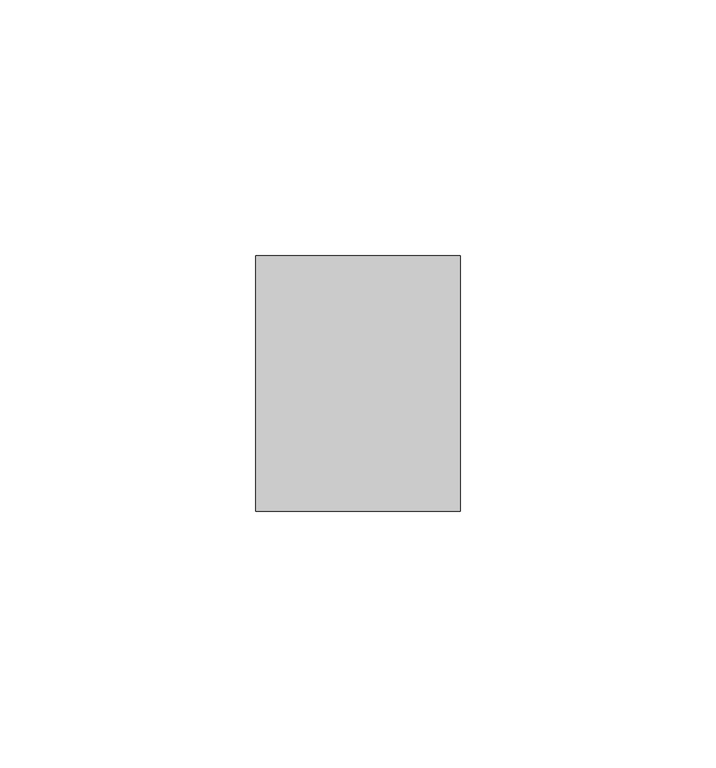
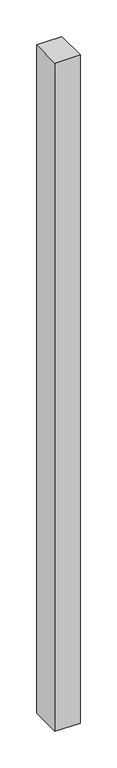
"""IFC4 building model written with IfcOpenShell, lengths in millimetres: member geometry, Прямоугольный импост : 40х50."""

from ifc_helpers import new_model, si_unit, frame, origin, place, context, project, spatial, polyline, outline, extrude, source, transform, mapped, element, save


def member_6be1d5d3(model_context):
    return source(origin(), model_context, "Body", "SweptSolid", [
        extrude(outline(polyline([(20.0, 0.0), (20.0, -50.0), (-20.0, -50.0), (-20.0, 0.0), (20.0, 0.0)])), frame((0.0, 0.0, -1117.5), z_axis=(0.0, 0.0, 1.0), x_axis=(1.0, 0.0, 0.0)), (0.0, 0.0, 1.0), 1117.5),
    ])


if __name__ == "__main__":
    model = new_model("IFC4")
    model_context = context("Model", 3, world=origin())
    ifc_project = project(units=[si_unit("LENGTHUNIT", "METRE", prefix="MILLI")], contexts=[model_context])
    site = spatial("IfcSite", under=ifc_project)
    building = spatial("IfcBuilding", under=site)
    placement = place(None, origin())
    member_shape = member_6be1d5d3(model_context)
    element("IfcMember", 1, ObjectType="Прямоугольный импост : 40х50", at=placement, inside=building, context=model_context, shape_type="MappedRepresentation", body=[
        mapped(member_shape, transform((0.0, 0.0, 0.0), x_axis=(1.0, 0.0, 0.0), y_axis=(0.0, 1.0, 0.0), z_axis=(0.0, 0.0, 1.0))),
    ])
    save(model, "model.ifc")
